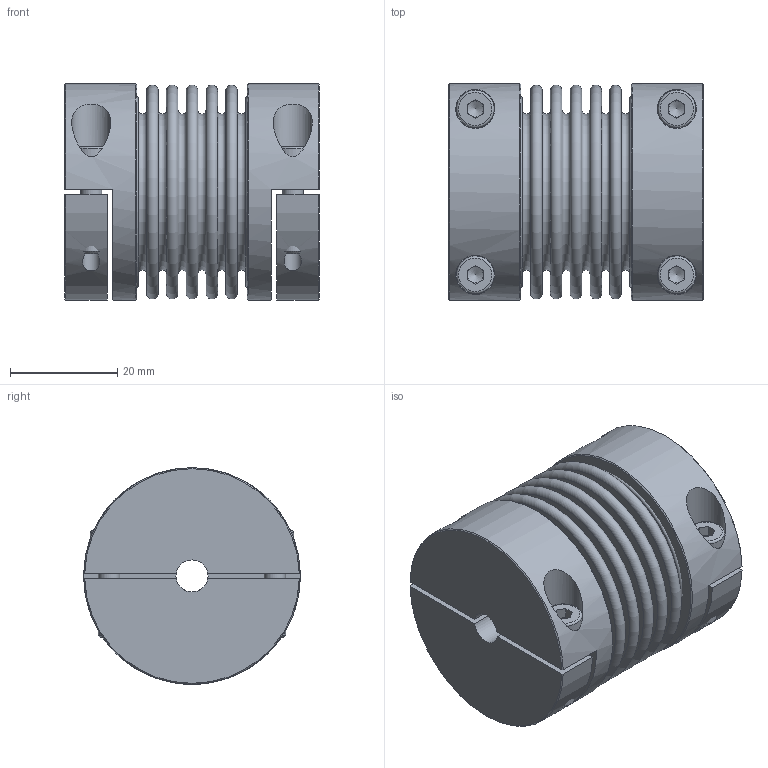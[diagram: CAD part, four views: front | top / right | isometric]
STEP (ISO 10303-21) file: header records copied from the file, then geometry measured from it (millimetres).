
FILE_DESCRIPTION( ( 'Unknown' ), '1' );
FILE_NAME( 'K:/Konstruktion/KB2H/KB2H-100-48.stp', 'Unknown', ( 'Unknown' ), ( 'Unknown' ), 'PSStep 16.0.42', 'Unknown', ' ' );
FILE_SCHEMA( ( 'AUTOMOTIVE_DESIGN { 1 0 10303 214 1 1 1 1 }' ) );
Length unit declared in the file: millimetre
Products named in the file (5): Assem1; KNH-100; BK100_Standard_1; Socket Head Cap Screw_DIN_DIN 912 M4 x 16 --- 16N_5
Assembly tree (9 placements, depth 2):
  Assem1
    KNH-100  x2
    KNH-100  x2
    BK100_Standard_1
    Socket Head Cap Screw_DIN_DIN 912 M4 x 16 --- 16N_5  x4
Bounding box: 47.65 x 40.5 x 40.5 mm (x, y, z)
Volume: 34097.8 mm3; surface area: 32328.6 mm2
Topology: 9 solids, 9 shells, 188 faces, 384 edges, 244 vertices
Faces by surface type: plane 108, torus 34, cylinder 32, cone 14
Full cylindrical faces by diameter (mm): 3.242 x4, 4 x4, 4.2 x4, 6 x2, 7 x4, 7.3 x4, 35.2 x2, 35.8 x2, 40.5 x2
Entity records: 3488 total; most frequent: CARTESIAN_POINT 620, DIRECTION 442, ORIENTED_EDGE 276, AXIS2_PLACEMENT_3D 201, EDGE_LOOP 184, FACE_OUTER_BOUND 143, EDGE_CURVE 138, VERTEX_POINT 127
